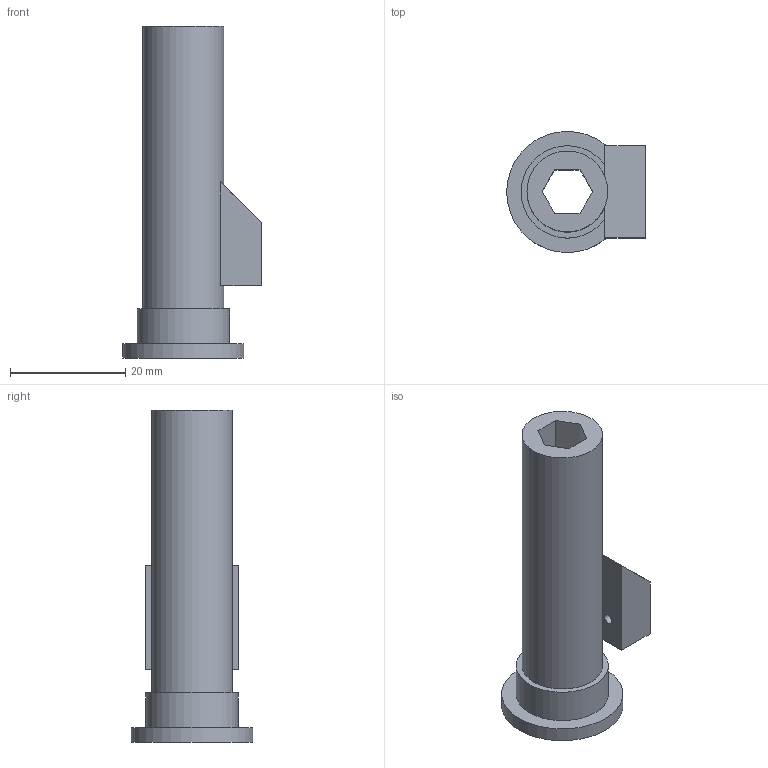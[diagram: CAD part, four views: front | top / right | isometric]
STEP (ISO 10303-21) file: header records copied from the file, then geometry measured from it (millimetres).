
FILE_DESCRIPTION(('Open CASCADE Model'),'2;1');
FILE_NAME('Open CASCADE Shape Model','2026-10-20T19:46:47',('Author'),( 'Open CASCADE'),'Open CASCADE STEP processor 8.0','build123d', 'Unknown');
FILE_SCHEMA(('AUTOMOTIVE_DESIGN { 1 0 10303 214 1 1 1 1 }'));
Length unit declared in the file: millimetre
Products named in the file (2): =>[0:1:1:2]; COMPOUND
Assembly tree (1 placements, depth 2):
  =>[0:1:1:2]
    COMPOUND
Bounding box: 24 x 21 x 57.5 mm (x, y, z)
Volume: 7973.7 mm3; surface area: 5679 mm2
Topology: 1 solids, 1 shells, 28 faces, 77 edges, 53 vertices
Faces by surface type: plane 22, cylinder 5, cone 1
Full cylindrical faces by diameter (mm): 1.7 x2, 14 x1, 16 x1, 21 x1
Entity records: 1971 total; most frequent: CARTESIAN_POINT 462, DIRECTION 262, ORIENTED_EDGE 154, PCURVE 154, DEFINITIONAL_REPRESENTATION 154, LINE 135, VECTOR 135, EDGE_CURVE 77
